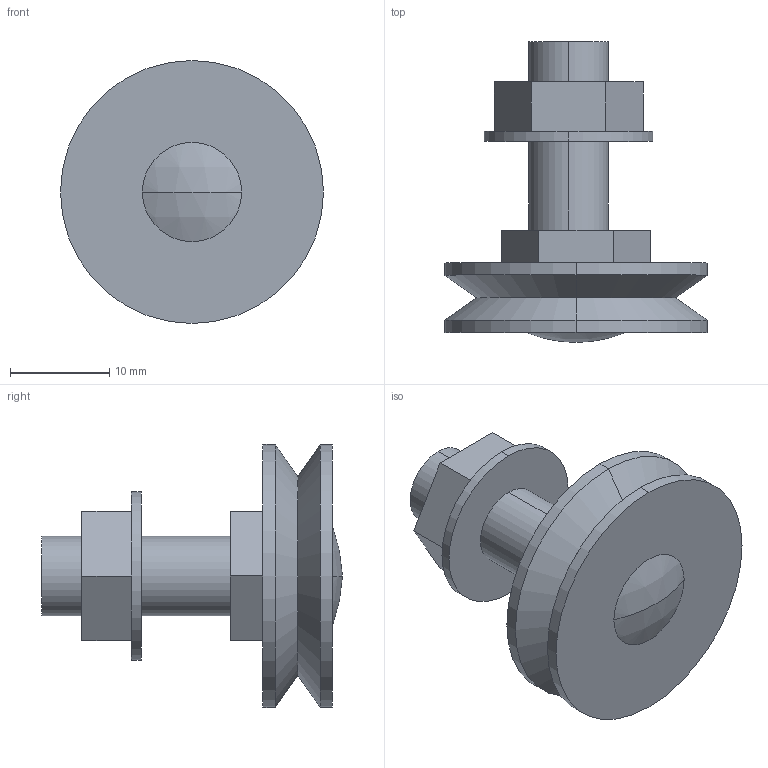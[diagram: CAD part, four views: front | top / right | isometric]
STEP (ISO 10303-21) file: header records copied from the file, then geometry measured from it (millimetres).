
FILE_DESCRIPTION(('STEP AP203'),'1');
FILE_NAME('glj_265_e_ns.stp','2021-09-29T05:40:01',('TraceParts'),('TraceParts S.A.'),'Spatial InterOp 3D',' ',' ');
FILE_SCHEMA(('CONFIG_CONTROL_DESIGN'));
Length unit declared in the file: millimetre
Products named in the file (1): 1
Bounding box: 26.5 x 30.3 x 26.5 mm (x, y, z)
Volume: 5403.7 mm3; surface area: 3028.6 mm2
Topology: 1 solids, 1 shells, 42 faces, 94 edges, 61 vertices
Faces by surface type: plane 26, cylinder 10, cone 4, sphere 2
Entity records: 1208 total; most frequent: DIRECTION 206, CARTESIAN_POINT 198, ORIENTED_EDGE 188, EDGE_CURVE 94, AXIS2_PLACEMENT_3D 69, LINE 68, VECTOR 68, VERTEX_POINT 61
